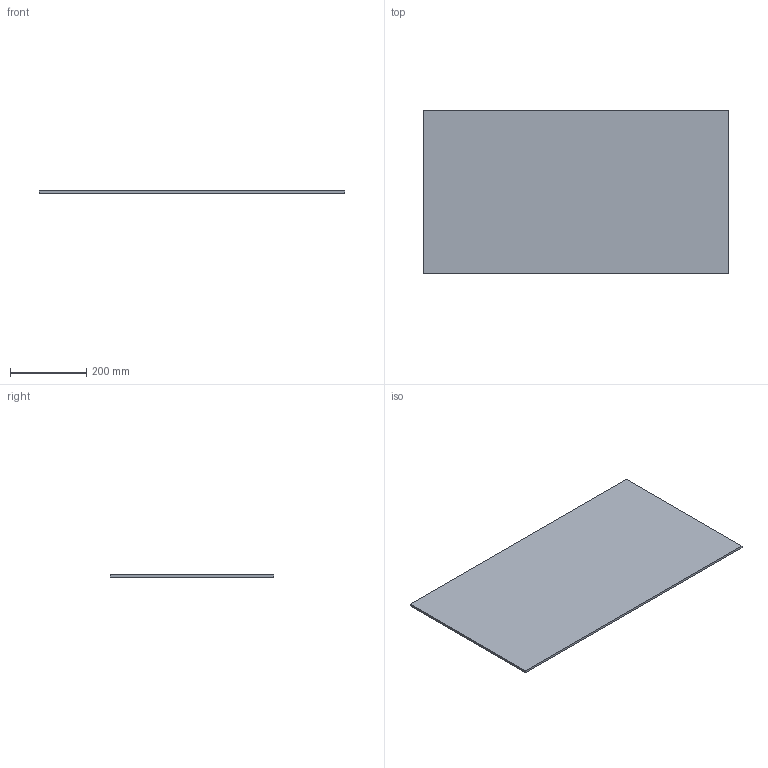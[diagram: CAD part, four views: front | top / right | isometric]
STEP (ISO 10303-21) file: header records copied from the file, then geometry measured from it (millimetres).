
FILE_DESCRIPTION (( 'STEP AP214' ), '1' );
FILE_NAME ('Lochblech_NL450_KAB900_19.step', '2010-10-11T13:38:31', ( 'grass' ), ( '' ), 'SwSTEP 2.0', 'SolidWorks 2010', '' );
FILE_SCHEMA (( 'AUTOMOTIVE_DESIGN' ));
Length unit declared in the file: millimetre
Products named in the file (1): Lochblech_NL450_KAB900_19
Bounding box: 802 x 429 x 6 mm (x, y, z)
Volume: 2064348 mm3; surface area: 702888 mm2
Topology: 1 solids, 1 shells, 6 faces, 12 edges, 8 vertices
Faces by surface type: plane 6
Entity records: 190 total; most frequent: CARTESIAN_POINT 27, DIRECTION 26, ORIENTED_EDGE 24, EDGE_CURVE 12, VECTOR 12, LINE 12, VERTEX_POINT 8, AXIS2_PLACEMENT_3D 7
